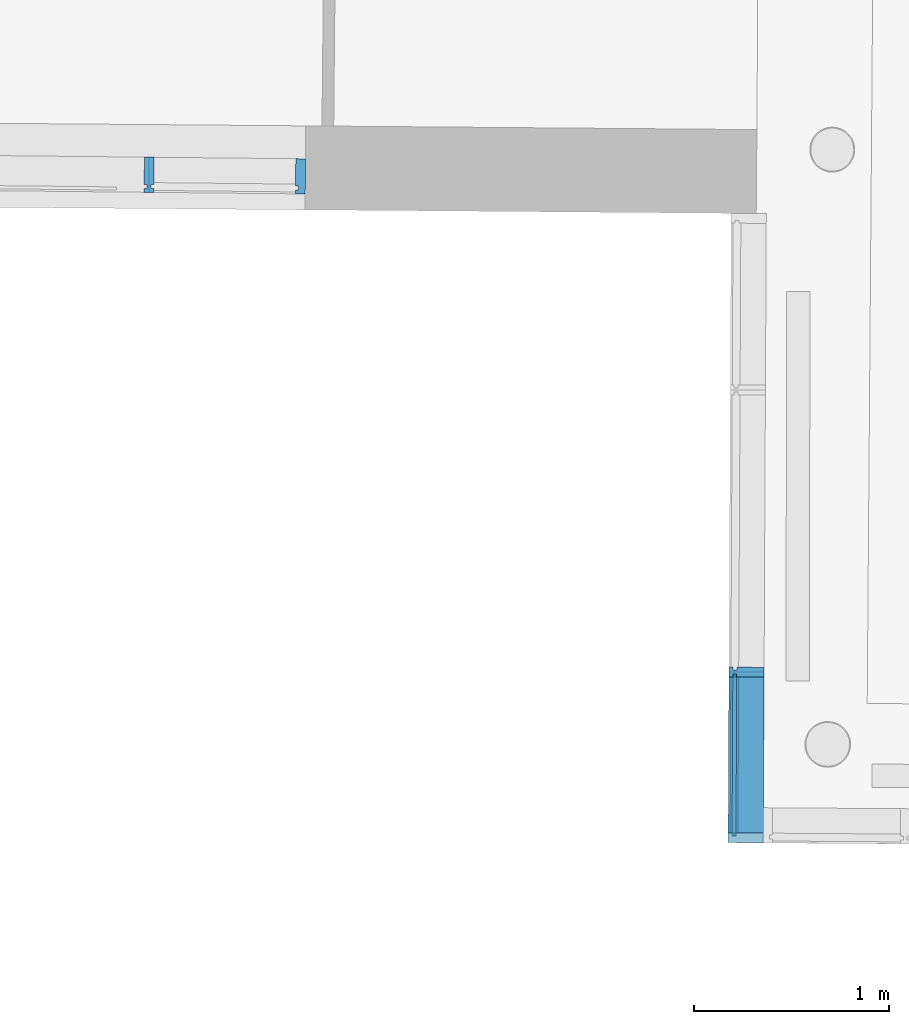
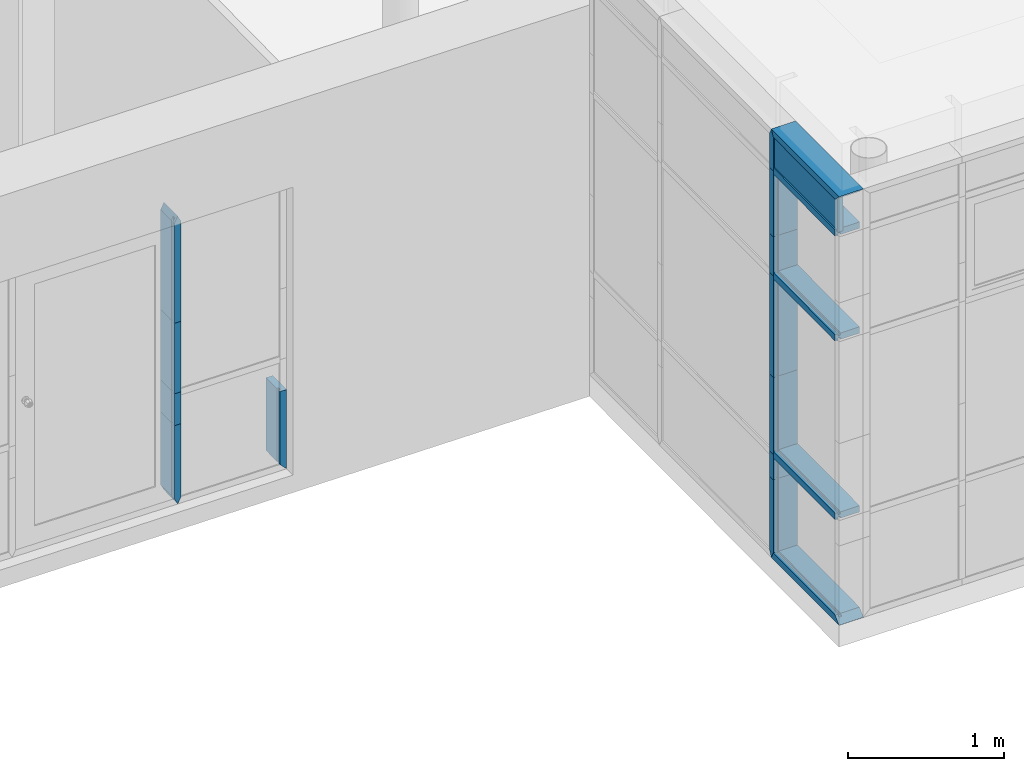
# One storey, part 169 of 196: 18 building element parts, 2 elements without a shape of their own.
"""IFC2X3 building model written with IfcOpenShell, lengths in metres."""

from ifc_helpers import new_model, entity, si_unit, converted_unit, derived_unit, money_unit, direction, frame, origin_with_axes, place, context, subcontext, project, spatial, faceted_brep, material, type_object, element, aggregate, save


model = new_model("IFC2X3")

# Units and contexts
model_context = context("Model", 3, precision=1e-05, world=origin_with_axes(), true_north=direction((0.0, 1.0)))
body_context = subcontext(model_context, "Body", "Model", "MODEL_VIEW")
ifc_project = project(units=[si_unit("LENGTHUNIT", "METRE"), si_unit("AREAUNIT", "SQUARE_METRE"), si_unit("VOLUMEUNIT", "CUBIC_METRE"), converted_unit("PLANEANGLEUNIT", "DEGREE", entity("IfcPlaneAngleMeasure", 0.0174532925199), si_unit("PLANEANGLEUNIT", "RADIAN"), dimensions=[0, 0, 0, 0, 0, 0, 0]), money_unit("EUR"), converted_unit("TIMEUNIT", "Year", entity("IfcTimeMeasure", 31556926.0), si_unit("TIMEUNIT", "SECOND"), dimensions=[0, 0, 1, 0, 0, 0, 0]), si_unit("MASSUNIT", "GRAM", prefix="KILO"), si_unit("THERMODYNAMICTEMPERATUREUNIT", "DEGREE_CELSIUS"), si_unit("LUMINOUSINTENSITYUNIT", "LUMEN"), si_unit("ENERGYUNIT", "JOULE", prefix="MEGA"), derived_unit("THERMALCONDUCTANCEUNIT", [(si_unit("POWERUNIT", "WATT"), 1), (si_unit("LENGTHUNIT", "METRE"), -1), (si_unit("THERMODYNAMICTEMPERATUREUNIT", "KELVIN"), -1)]), derived_unit("SPECIFICHEATCAPACITYUNIT", [(si_unit("ENERGYUNIT", "JOULE"), 1), (si_unit("MASSUNIT", "GRAM", prefix="KILO"), -1), (si_unit("THERMODYNAMICTEMPERATUREUNIT", "KELVIN"), -1)]), derived_unit("MASSDENSITYUNIT", [(si_unit("MASSUNIT", "GRAM", prefix="KILO"), 1), (si_unit("VOLUMEUNIT", "CUBIC_METRE"), -1)])], contexts=[model_context])

# Site, building, storey
site_placement = place(None, origin_with_axes())
site = spatial("IfcSite", under=ifc_project, at=site_placement, Name="Gelände", CompositionType="ELEMENT")
building_placement = place(site_placement, origin_with_axes())
building = spatial("IfcBuilding", under=site, at=building_placement, Name="Gebäude", CompositionType="ELEMENT")
storey_placement = place(building_placement, frame((0.0, 0.0, -3.0), z_axis=(0.0, 0.0, 1.0), x_axis=(1.0, 0.0, 0.0)))
storey = spatial("IfcBuildingStorey", under=building, at=storey_placement, Name="KELLERGESCHOSS", CompositionType="ELEMENT", Elevation=-3.0)

# Proxy, building element parts
building_element_proxy_type = type_object("IfcBuildingElementProxyType", Name="Fassadentyp", PredefinedType="NOTDEFINED")
proxy_1_placement = place(storey_placement, frame((-5.58247621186, 39.1627608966, 0.57767685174), z_axis=(0.0, 0.0, 1.0), x_axis=(1.0, 0.0, 0.0)))
proxy_1 = element("IfcBuildingElementProxy", 1, at=proxy_1_placement, inside=storey, type_object=building_element_proxy_type, Name="Fassade-002")
ifc_material_1 = material(Name="53_Metall, Aluminium")
building_element_part_1_placement = place(proxy_1_placement, origin_with_axes())
building_element_part_1 = element("IfcBuildingElementPart", 2, at=building_element_part_1_placement, material=ifc_material_1, Name="53_Metall, Aluminium", context=body_context, shape_type="Brep", body=[
    faceted_brep([(2.39099130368, -0.0149234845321, 0.619999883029), (2.3907828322, -0.0349223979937, 0.619999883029), (2.37578364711, -0.03476604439, 0.619999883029), (2.37557517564, -0.0547649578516, 0.619999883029), (2.42557245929, -0.0552861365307, 0.619999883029), (2.42744870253, 0.124704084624, 0.619999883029), (2.37745141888, 0.125225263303, 0.619999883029), (2.37599211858, -0.0147671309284, 0.619999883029), (2.39099130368, -0.0149234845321, 0.0349999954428), (2.3907828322, -0.0349223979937, 0.0349999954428), (2.37578364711, -0.03476604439, 0.0499999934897), (2.37557517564, -0.0547649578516, 0.0499999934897), (2.42557245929, -0.0552861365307, 0.0), (2.42744870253, 0.124704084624, 0.0), (2.37745141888, 0.125225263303, 0.0499999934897), (2.37599211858, -0.0147671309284, 0.0499999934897)], [[[0, 1, 2, 3, 4, 5, 6, 7]], [[1, 0, 8, 9]], [[10, 2, 1, 9]], [[2, 10, 11, 3]], [[4, 3, 11, 12]], [[5, 4, 12, 13]], [[6, 5, 13, 14]], [[15, 7, 6, 14]], [[0, 7, 15, 8]], [[8, 15, 14, 13, 12, 11, 10, 9]]]),
])
building_element_part_2_placement = place(proxy_1_placement, origin_with_axes())
building_element_part_2 = element("IfcBuildingElementPart", 3, at=building_element_part_2_placement, material=ifc_material_1, Name="53_Metall, Aluminium", context=body_context, shape_type="Brep", body=[
    faceted_brep([(1.63537904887, -0.00704687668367, 1.41999992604), (1.65037823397, -0.00720323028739, 1.41999992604), (1.65183753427, 0.132789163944, 1.41999992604), (1.60184025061, 0.133310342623, 1.41999992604), (1.60038095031, -0.00668205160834, 1.41999992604), (1.61538013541, -0.00683840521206, 1.41999992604), (1.61517166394, -0.0268373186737, 1.41999992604), (1.60017247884, -0.02668096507, 1.41999992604), (1.59996400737, -0.0466798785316, 1.41999992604), (1.64996129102, -0.0472010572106, 1.41999992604), (1.6501697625, -0.027202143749, 1.41999992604), (1.6351705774, -0.0270457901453, 1.41999992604), (1.63537904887, -0.00704687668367, 0.869344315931), (1.65037823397, -0.00720323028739, 0.869344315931), (1.65183753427, 0.132789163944, 0.869344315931), (1.60184025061, 0.133310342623, 0.869344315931), (1.60038095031, -0.00668205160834, 0.869344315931), (1.61538013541, -0.00683840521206, 0.869344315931), (1.61517166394, -0.0268373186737, 0.869344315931), (1.60017247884, -0.02668096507, 0.869344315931), (1.59996400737, -0.0466798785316, 0.869344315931), (1.64996129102, -0.0472010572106, 0.869344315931), (1.6501697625, -0.027202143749, 0.869344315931), (1.6351705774, -0.0270457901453, 0.869344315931)], [[[0, 1, 2, 3, 4, 5, 6, 7, 8, 9, 10, 11]], [[1, 0, 12, 13]], [[1, 13, 14, 2]], [[3, 2, 14, 15]], [[4, 3, 15, 16]], [[4, 16, 17, 5]], [[5, 17, 18, 6]], [[7, 6, 18, 19]], [[19, 20, 8, 7]], [[9, 8, 20, 21]], [[22, 10, 9, 21]], [[11, 10, 22, 23]], [[0, 11, 23, 12]], [[23, 22, 21, 20, 19, 18, 17, 16, 15, 14, 13, 12]]]),
])
building_element_part_3_placement = place(proxy_1_placement, origin_with_axes())
building_element_part_3 = element("IfcBuildingElementPart", 4, at=building_element_part_3_placement, material=ifc_material_1, Name="53_Metall, Aluminium", context=body_context, shape_type="Brep", body=[
    faceted_brep([(1.63537904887, -0.00704687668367, 2.23081791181), (1.65037823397, -0.00720323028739, 2.20081791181), (1.65183753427, 0.132789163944, 2.20081791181), (1.62683889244, 0.133049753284, 2.25081791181), (1.6249626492, -0.0469404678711, 2.25081791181), (1.64996129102, -0.0472010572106, 2.20081791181), (1.6501697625, -0.027202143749, 2.20081791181), (1.6351705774, -0.0270457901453, 2.23081791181), (1.63537904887, -0.00704687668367, 1.41999992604), (1.65037823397, -0.00720323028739, 1.41999992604), (1.65183753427, 0.132789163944, 1.41999992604), (1.60184025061, 0.133310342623, 2.20081791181), (1.60184025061, 0.133310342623, 1.41999992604), (1.60038095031, -0.00668205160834, 2.20081791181), (1.61538013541, -0.00683840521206, 2.23081791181), (1.61517166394, -0.0268373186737, 2.23081791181), (1.60017247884, -0.02668096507, 2.20081791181), (1.59996400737, -0.0466798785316, 2.20081791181), (1.64996129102, -0.0472010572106, 1.41999992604), (1.59996400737, -0.0466798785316, 1.41999992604), (1.6501697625, -0.027202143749, 1.41999992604), (1.6351705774, -0.0270457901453, 1.41999992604), (1.60017247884, -0.02668096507, 1.41999992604), (1.61517166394, -0.0268373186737, 1.41999992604), (1.61538013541, -0.00683840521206, 1.41999992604), (1.60038095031, -0.00668205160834, 1.41999992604)], [[[0, 1, 2, 3, 4, 5, 6, 7]], [[1, 0, 8, 9]], [[1, 9, 10, 2]], [[11, 3, 2, 10, 12]], [[3, 11, 13, 14, 15, 16, 17, 4]], [[18, 5, 4, 17, 19]], [[20, 6, 5, 18]], [[7, 6, 20, 21]], [[0, 7, 21, 8]], [[21, 20, 18, 19, 22, 23, 24, 25, 12, 10, 9, 8]], [[13, 11, 12, 25]], [[13, 25, 24, 14]], [[14, 24, 23, 15]], [[16, 15, 23, 22]], [[22, 19, 17, 16]]]),
])
building_element_part_4_placement = place(proxy_1_placement, origin_with_axes())
building_element_part_4 = element("IfcBuildingElementPart", 5, at=building_element_part_4_placement, material=ifc_material_1, Name="53_Metall, Aluminium", context=body_context, shape_type="Brep", body=[
    faceted_brep([(1.63537904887, -0.00704687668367, 0.619999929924), (1.65037823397, -0.00720323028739, 0.619999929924), (1.65183753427, 0.132789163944, 0.619999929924), (1.60184025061, 0.133310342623, 0.619999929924), (1.60038095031, -0.00668205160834, 0.619999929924), (1.61538013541, -0.00683840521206, 0.619999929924), (1.61517166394, -0.0268373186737, 0.619999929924), (1.60017247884, -0.02668096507, 0.619999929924), (1.59996400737, -0.0466798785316, 0.619999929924), (1.64996129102, -0.0472010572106, 0.619999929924), (1.6501697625, -0.027202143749, 0.619999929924), (1.6351705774, -0.0270457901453, 0.619999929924), (1.63537904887, -0.00704687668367, 0.02), (1.65037823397, -0.00720323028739, 0.05), (1.65183753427, 0.132789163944, 0.05), (1.62683889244, 0.133049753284, 0.0), (1.60184025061, 0.133310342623, 0.05), (1.60038095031, -0.00668205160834, 0.05), (1.61538013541, -0.00683840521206, 0.02), (1.61517166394, -0.0268373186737, 0.02), (1.60017247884, -0.02668096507, 0.05), (1.59996400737, -0.0466798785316, 0.05), (1.6249626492, -0.0469404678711, 0.0), (1.64996129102, -0.0472010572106, 0.05), (1.6501697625, -0.027202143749, 0.05), (1.6351705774, -0.0270457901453, 0.02)], [[[0, 1, 2, 3, 4, 5, 6, 7, 8, 9, 10, 11]], [[1, 0, 12, 13]], [[1, 13, 14, 2]], [[14, 15, 16, 3, 2]], [[4, 3, 16, 17]], [[4, 17, 18, 5]], [[5, 18, 19, 6]], [[7, 6, 19, 20]], [[20, 21, 8, 7]], [[21, 22, 23, 9, 8]], [[24, 10, 9, 23]], [[11, 10, 24, 25]], [[0, 11, 25, 12]], [[25, 24, 23, 22, 15, 14, 13, 12]], [[21, 20, 19, 18, 17, 16, 15, 22]]]),
])
building_element_part_5_placement = place(proxy_1_placement, origin_with_axes())
building_element_part_5 = element("IfcBuildingElementPart", 6, at=building_element_part_5_placement, material=ifc_material_1, Name="53_Metall, Aluminium", context=body_context, shape_type="Brep", body=[
    faceted_brep([(1.63537904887, -0.00704687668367, 0.869344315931), (1.65037823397, -0.00720323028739, 0.869344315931), (1.65183753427, 0.132789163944, 0.869344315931), (1.60184025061, 0.133310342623, 0.869344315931), (1.60038095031, -0.00668205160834, 0.869344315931), (1.61538013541, -0.00683840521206, 0.869344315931), (1.61517166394, -0.0268373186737, 0.869344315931), (1.60017247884, -0.02668096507, 0.869344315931), (1.59996400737, -0.0466798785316, 0.869344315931), (1.64996129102, -0.0472010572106, 0.869344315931), (1.6501697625, -0.027202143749, 0.869344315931), (1.6351705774, -0.0270457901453, 0.869344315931), (1.63537904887, -0.00704687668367, 0.619999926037), (1.65037823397, -0.00720323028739, 0.619999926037), (1.65183753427, 0.132789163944, 0.619999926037), (1.60184025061, 0.133310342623, 0.619999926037), (1.60038095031, -0.00668205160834, 0.619999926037), (1.61538013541, -0.00683840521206, 0.619999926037), (1.61517166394, -0.0268373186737, 0.619999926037), (1.60017247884, -0.02668096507, 0.619999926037), (1.59996400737, -0.0466798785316, 0.619999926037), (1.64996129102, -0.0472010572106, 0.619999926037), (1.6501697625, -0.027202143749, 0.619999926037), (1.6351705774, -0.0270457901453, 0.619999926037)], [[[0, 1, 2, 3, 4, 5, 6, 7, 8, 9, 10, 11]], [[1, 0, 12, 13]], [[1, 13, 14, 2]], [[3, 2, 14, 15]], [[4, 3, 15, 16]], [[4, 16, 17, 5]], [[5, 17, 18, 6]], [[7, 6, 18, 19]], [[19, 20, 8, 7]], [[9, 8, 20, 21]], [[22, 10, 9, 21]], [[11, 10, 22, 23]], [[0, 11, 23, 12]], [[23, 22, 21, 20, 19, 18, 17, 16, 15, 14, 13, 12]]]),
])
aggregate(proxy_1, [building_element_part_1, building_element_part_2, building_element_part_3, building_element_part_4, building_element_part_5])

proxy_2_placement = place(storey_placement, frame((-0.953000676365, 37.3811147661, 0.610000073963), z_axis=(0.0, 0.0, 1.0), x_axis=(1.0, 0.0, 0.0)))
proxy_2 = element("IfcBuildingElementProxy", 7, at=proxy_2_placement, inside=storey, type_object=building_element_proxy_type, Name="Fassade-002")
ifc_material_2 = material(Name="45_Glas, Normalglas")
building_element_part_6_placement = place(proxy_2_placement, origin_with_axes())
building_element_part_6 = element("IfcBuildingElementPart", 8, at=building_element_part_6_placement, material=ifc_material_2, Name="45_Glas, Normalglas", context=body_context, shape_type="Brep", body=[
    faceted_brep([(0.0124591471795, -1.56172796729, 3.31500001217), (0.0164629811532, -0.732550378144, 3.31500001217), (-0.0235365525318, -0.73235723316, 3.31500001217), (-0.0275403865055, -1.56153482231, 3.31500001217), (0.0124591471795, -1.56172796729, 3.04649580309), (0.0164629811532, -0.732550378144, 3.04649580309), (-0.0235365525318, -0.73235723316, 3.04649580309), (-0.0275403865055, -1.56153482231, 3.04649580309)], [[[0, 1, 2, 3]], [[0, 4, 5, 1]], [[1, 5, 6, 2]], [[3, 2, 6, 7]], [[4, 0, 3, 7]], [[5, 4, 7, 6]]]),
])
building_element_part_7_placement = place(proxy_2_placement, origin_with_axes())
building_element_part_7 = element("IfcBuildingElementPart", 9, at=building_element_part_7_placement, material=ifc_material_1, Name="53_Metall, Aluminium", context=body_context, shape_type="Brep", body=[
    faceted_brep([(0.0024592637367, -1.56167968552, 0.035), (-0.0175405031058, -1.56158311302, 0.035), (-0.0174680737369, -1.54658328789, 0.05), (-0.0374678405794, -1.5464867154, 0.05), (-0.037709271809, -1.59648613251, 0.0), (0.142288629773, -1.59735528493, 0.0), (0.142530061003, -1.54735586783, 0.05), (0.00253169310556, -1.54667986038, 0.05), (0.00642688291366, -0.740002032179, 0.035), (-0.0135728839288, -0.739905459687, 0.035), (-0.0136090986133, -0.747405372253, 0.05), (-0.0336088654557, -0.747308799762, 0.05), (-0.033488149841, -0.722309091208, 0.0), (0.146509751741, -0.723178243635, 0.0), (0.146389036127, -0.748177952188, 0.05), (0.00639066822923, -0.747501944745, 0.05)], [[[0, 1, 2, 3, 4, 5, 6, 7]], [[1, 0, 8, 9]], [[10, 2, 1, 9]], [[2, 10, 11, 3]], [[4, 3, 11, 12]], [[5, 4, 12, 13]], [[6, 5, 13, 14]], [[15, 7, 6, 14]], [[0, 7, 15, 8]], [[8, 15, 14, 13, 12, 11, 10, 9]]]),
])
building_element_part_8_placement = place(proxy_2_placement, origin_with_axes())
building_element_part_8 = element("IfcBuildingElementPart", 10, at=building_element_part_8_placement, material=ifc_material_1, Name="53_Metall, Aluminium", context=body_context, shape_type="Brep", body=[
    faceted_brep([(0.0024592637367, -1.56167968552, 3.31500001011), (0.00253169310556, -1.54667986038, 3.30000001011), (0.142530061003, -1.54735586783, 3.30000001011), (0.142288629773, -1.59735528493, 3.35000001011), (-0.037709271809, -1.59648613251, 3.35000001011), (-0.0374678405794, -1.5464867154, 3.30000001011), (-0.0174680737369, -1.54658328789, 3.30000001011), (-0.0175405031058, -1.56158311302, 3.31500001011), (0.00642688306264, -0.740002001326, 3.31500001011), (0.00639066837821, -0.747501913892, 3.30000001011), (0.146389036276, -0.748177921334, 3.30000001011), (0.14650975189, -0.723178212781, 3.35000001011), (-0.033488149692, -0.722309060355, 3.35000001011), (-0.0336088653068, -0.747308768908, 3.30000001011), (-0.0136090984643, -0.7474053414, 3.30000001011), (-0.0135728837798, -0.739905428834, 3.31500001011)], [[[0, 1, 2, 3, 4, 5, 6, 7]], [[0, 8, 9, 1]], [[9, 10, 2, 1]], [[2, 10, 11, 3]], [[3, 11, 12, 4]], [[4, 12, 13, 5]], [[6, 5, 13, 14]], [[14, 15, 7, 6]], [[7, 15, 8, 0]], [[8, 15, 14, 13, 12, 11, 10, 9]]]),
])
building_element_part_9_placement = place(proxy_2_placement, origin_with_axes())
building_element_part_9 = element("IfcBuildingElementPart", 11, at=building_element_part_9_placement, material=ifc_material_1, Name="53_Metall, Aluminium", context=body_context, shape_type="Brep", body=[
    faceted_brep([(0.00253169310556, -1.54667986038, 3.02649579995), (0.00253169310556, -1.54667986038, 3.01149579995), (0.142530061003, -1.54735586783, 3.01149579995), (0.142530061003, -1.54735586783, 3.06149579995), (0.00253169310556, -1.54667986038, 3.06149579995), (0.00253169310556, -1.54667986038, 3.04649579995), (-0.0174680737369, -1.54658328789, 3.04649579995), (-0.0174680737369, -1.54658328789, 3.06149579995), (-0.0374678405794, -1.5464867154, 3.06149579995), (-0.0374678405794, -1.5464867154, 3.01149579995), (-0.0174680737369, -1.54658328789, 3.01149579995), (-0.0174680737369, -1.54658328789, 3.02649579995), (0.00639066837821, -0.747501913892, 3.02649579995), (0.00639066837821, -0.747501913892, 3.01149579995), (0.146389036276, -0.748177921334, 3.01149579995), (0.146389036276, -0.748177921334, 3.06149579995), (0.00639066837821, -0.747501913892, 3.06149579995), (0.00639066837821, -0.747501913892, 3.04649579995), (-0.0136090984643, -0.7474053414, 3.04649579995), (-0.0136090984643, -0.7474053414, 3.06149579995), (-0.0336088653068, -0.747308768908, 3.06149579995), (-0.0336088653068, -0.747308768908, 3.01149579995), (-0.0136090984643, -0.7474053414, 3.01149579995), (-0.0136090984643, -0.7474053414, 3.02649579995)], [[[0, 1, 2, 3, 4, 5, 6, 7, 8, 9, 10, 11]], [[1, 0, 12, 13]], [[1, 13, 14, 2]], [[2, 14, 15, 3]], [[4, 3, 15, 16]], [[4, 16, 17, 5]], [[5, 17, 18, 6]], [[7, 6, 18, 19]], [[19, 20, 8, 7]], [[8, 20, 21, 9]], [[22, 10, 9, 21]], [[11, 10, 22, 23]], [[0, 11, 23, 12]], [[23, 22, 21, 20, 19, 18, 17, 16, 15, 14, 13, 12]]]),
])
building_element_part_10_placement = place(proxy_2_placement, origin_with_axes())
building_element_part_10 = element("IfcBuildingElementPart", 12, at=building_element_part_10_placement, material=ifc_material_1, Name="53_Metall, Aluminium", context=body_context, shape_type="Brep", body=[
    faceted_brep([(0.00253169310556, -1.54667986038, 2.2064877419), (0.00253169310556, -1.54667986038, 2.1914877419), (0.142530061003, -1.54735586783, 2.1914877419), (0.142530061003, -1.54735586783, 2.2414877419), (0.00253169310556, -1.54667986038, 2.2414877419), (0.00253169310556, -1.54667986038, 2.2264877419), (-0.0174680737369, -1.54658328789, 2.2264877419), (-0.0174680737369, -1.54658328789, 2.2414877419), (-0.0374678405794, -1.5464867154, 2.2414877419), (-0.0374678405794, -1.5464867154, 2.1914877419), (-0.0174680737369, -1.54658328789, 2.1914877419), (-0.0174680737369, -1.54658328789, 2.2064877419), (0.00639066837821, -0.747501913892, 2.2064877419), (0.00639066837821, -0.747501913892, 2.1914877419), (0.146389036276, -0.748177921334, 2.1914877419), (0.146389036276, -0.748177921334, 2.2414877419), (0.00639066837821, -0.747501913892, 2.2414877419), (0.00639066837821, -0.747501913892, 2.2264877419), (-0.0136090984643, -0.7474053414, 2.2264877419), (-0.0136090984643, -0.7474053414, 2.2414877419), (-0.0336088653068, -0.747308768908, 2.2414877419), (-0.0336088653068, -0.747308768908, 2.1914877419), (-0.0136090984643, -0.7474053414, 2.1914877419), (-0.0136090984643, -0.7474053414, 2.2064877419)], [[[0, 1, 2, 3, 4, 5, 6, 7, 8, 9, 10, 11]], [[1, 0, 12, 13]], [[1, 13, 14, 2]], [[2, 14, 15, 3]], [[4, 3, 15, 16]], [[4, 16, 17, 5]], [[5, 17, 18, 6]], [[7, 6, 18, 19]], [[19, 20, 8, 7]], [[8, 20, 21, 9]], [[22, 10, 9, 21]], [[11, 10, 22, 23]], [[0, 11, 23, 12]], [[23, 22, 21, 20, 19, 18, 17, 16, 15, 14, 13, 12]]]),
])
building_element_part_11_placement = place(proxy_2_placement, origin_with_axes())
building_element_part_11 = element("IfcBuildingElementPart", 13, at=building_element_part_11_placement, material=ifc_material_1, Name="53_Metall, Aluminium", context=body_context, shape_type="Brep", body=[
    faceted_brep([(0.00253169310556, -1.54667986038, 0.808463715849), (0.00253169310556, -1.54667986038, 0.793463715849), (0.142530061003, -1.54735586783, 0.793463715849), (0.142530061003, -1.54735586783, 0.843463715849), (0.00253169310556, -1.54667986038, 0.843463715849), (0.00253169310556, -1.54667986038, 0.828463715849), (-0.0174680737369, -1.54658328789, 0.828463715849), (-0.0174680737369, -1.54658328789, 0.843463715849), (-0.0374678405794, -1.5464867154, 0.843463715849), (-0.0374678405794, -1.5464867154, 0.793463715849), (-0.0174680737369, -1.54658328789, 0.793463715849), (-0.0174680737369, -1.54658328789, 0.808463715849), (0.00639066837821, -0.747501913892, 0.808463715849), (0.00639066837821, -0.747501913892, 0.793463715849), (0.146389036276, -0.748177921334, 0.793463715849), (0.146389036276, -0.748177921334, 0.843463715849), (0.00639066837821, -0.747501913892, 0.843463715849), (0.00639066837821, -0.747501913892, 0.828463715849), (-0.0136090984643, -0.7474053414, 0.828463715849), (-0.0136090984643, -0.7474053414, 0.843463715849), (-0.0336088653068, -0.747308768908, 0.843463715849), (-0.0336088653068, -0.747308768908, 0.793463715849), (-0.0136090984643, -0.7474053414, 0.793463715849), (-0.0136090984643, -0.7474053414, 0.808463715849)], [[[0, 1, 2, 3, 4, 5, 6, 7, 8, 9, 10, 11]], [[1, 0, 12, 13]], [[1, 13, 14, 2]], [[2, 14, 15, 3]], [[4, 3, 15, 16]], [[4, 16, 17, 5]], [[5, 17, 18, 6]], [[7, 6, 18, 19]], [[19, 20, 8, 7]], [[8, 20, 21, 9]], [[22, 10, 9, 21]], [[11, 10, 22, 23]], [[0, 11, 23, 12]], [[23, 22, 21, 20, 19, 18, 17, 16, 15, 14, 13, 12]]]),
])
building_element_part_12_placement = place(proxy_2_placement, origin_with_axes())
building_element_part_12 = element("IfcBuildingElementPart", 14, at=building_element_part_12_placement, material=ifc_material_1, Name="53_Metall, Aluminium", context=body_context, shape_type="Brep", body=[
    faceted_brep([(0.00646309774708, -0.73250208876, 3.03649579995), (0.00639066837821, -0.747501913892, 3.03649579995), (0.146389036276, -0.748177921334, 3.03649579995), (0.146630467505, -0.698178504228, 3.03649579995), (0.00663209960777, -0.697502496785, 3.03649579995), (0.0065596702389, -0.712502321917, 3.03649579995), (-0.0134400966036, -0.712405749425, 3.03649579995), (-0.0133676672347, -0.697405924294, 3.03649579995), (-0.0333674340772, -0.697309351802, 3.03649579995), (-0.0336088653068, -0.747308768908, 3.03649579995), (-0.0136090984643, -0.7474053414, 3.03649579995), (-0.0135366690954, -0.732405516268, 3.03649579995), (0.00646309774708, -0.73250208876, 2.51999992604), (0.00639066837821, -0.747501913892, 2.51999992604), (0.146389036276, -0.748177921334, 2.51999992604), (0.146630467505, -0.698178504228, 2.51999992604), (0.00663209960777, -0.697502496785, 2.51999992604), (0.0065596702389, -0.712502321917, 2.51999992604), (-0.0134400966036, -0.712405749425, 2.51999992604), (-0.0133676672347, -0.697405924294, 2.51999992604), (-0.0333674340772, -0.697309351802, 2.51999992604), (-0.0336088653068, -0.747308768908, 2.51999992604), (-0.0136090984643, -0.7474053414, 2.51999992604), (-0.0135366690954, -0.732405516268, 2.51999992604)], [[[0, 1, 2, 3, 4, 5, 6, 7, 8, 9, 10, 11]], [[1, 0, 12, 13]], [[1, 13, 14, 2]], [[3, 2, 14, 15]], [[4, 3, 15, 16]], [[4, 16, 17, 5]], [[5, 17, 18, 6]], [[7, 6, 18, 19]], [[19, 20, 8, 7]], [[9, 8, 20, 21]], [[22, 10, 9, 21]], [[11, 10, 22, 23]], [[0, 11, 23, 12]], [[23, 22, 21, 20, 19, 18, 17, 16, 15, 14, 13, 12]]]),
])
building_element_part_13_placement = place(proxy_2_placement, origin_with_axes())
building_element_part_13 = element("IfcBuildingElementPart", 15, at=building_element_part_13_placement, material=ifc_material_1, Name="53_Metall, Aluminium", context=body_context, shape_type="Brep", body=[
    faceted_brep([(0.00646309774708, -0.73250208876, 2.51999992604), (0.00639066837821, -0.747501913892, 2.51999992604), (0.146389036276, -0.748177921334, 2.51999992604), (0.146630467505, -0.698178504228, 2.51999992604), (0.00663209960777, -0.697502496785, 2.51999992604), (0.0065596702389, -0.712502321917, 2.51999992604), (-0.0134400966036, -0.712405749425, 2.51999992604), (-0.0133676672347, -0.697405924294, 2.51999992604), (-0.0333674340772, -0.697309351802, 2.51999992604), (-0.0336088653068, -0.747308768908, 2.51999992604), (-0.0136090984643, -0.7474053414, 2.51999992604), (-0.0135366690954, -0.732405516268, 2.51999992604), (0.00646309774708, -0.73250208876, 2.2164877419), (0.00639066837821, -0.747501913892, 2.2164877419), (0.146389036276, -0.748177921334, 2.2164877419), (0.146630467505, -0.698178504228, 2.2164877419), (0.00663209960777, -0.697502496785, 2.2164877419), (0.0065596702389, -0.712502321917, 2.2164877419), (-0.0134400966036, -0.712405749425, 2.2164877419), (-0.0133676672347, -0.697405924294, 2.2164877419), (-0.0333674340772, -0.697309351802, 2.2164877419), (-0.0336088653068, -0.747308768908, 2.2164877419), (-0.0136090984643, -0.7474053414, 2.2164877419), (-0.0135366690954, -0.732405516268, 2.2164877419)], [[[0, 1, 2, 3, 4, 5, 6, 7, 8, 9, 10, 11]], [[1, 0, 12, 13]], [[1, 13, 14, 2]], [[3, 2, 14, 15]], [[4, 3, 15, 16]], [[4, 16, 17, 5]], [[5, 17, 18, 6]], [[7, 6, 18, 19]], [[19, 20, 8, 7]], [[9, 8, 20, 21]], [[22, 10, 9, 21]], [[11, 10, 22, 23]], [[0, 11, 23, 12]], [[23, 22, 21, 20, 19, 18, 17, 16, 15, 14, 13, 12]]]),
])
building_element_part_14_placement = place(proxy_2_placement, origin_with_axes())
building_element_part_14 = element("IfcBuildingElementPart", 16, at=building_element_part_14_placement, material=ifc_material_1, Name="53_Metall, Aluminium", context=body_context, shape_type="Brep", body=[
    faceted_brep([(0.00646309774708, -0.73250208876, 2.2164877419), (0.00639066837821, -0.747501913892, 2.2164877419), (0.146389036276, -0.748177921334, 2.2164877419), (0.146630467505, -0.698178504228, 2.2164877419), (0.00663209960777, -0.697502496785, 2.2164877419), (0.0065596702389, -0.712502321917, 2.2164877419), (-0.0134400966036, -0.712405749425, 2.2164877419), (-0.0133676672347, -0.697405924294, 2.2164877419), (-0.0333674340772, -0.697309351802, 2.2164877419), (-0.0336088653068, -0.747308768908, 2.2164877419), (-0.0136090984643, -0.7474053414, 2.2164877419), (-0.0135366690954, -0.732405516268, 2.2164877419), (0.00646309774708, -0.73250208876, 1.41999992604), (0.00639066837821, -0.747501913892, 1.41999992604), (0.146389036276, -0.748177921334, 1.41999992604), (0.146630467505, -0.698178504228, 1.41999992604), (0.00663209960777, -0.697502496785, 1.41999992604), (0.0065596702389, -0.712502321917, 1.41999992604), (-0.0134400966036, -0.712405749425, 1.41999992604), (-0.0133676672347, -0.697405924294, 1.41999992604), (-0.0333674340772, -0.697309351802, 1.41999992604), (-0.0336088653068, -0.747308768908, 1.41999992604), (-0.0136090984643, -0.7474053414, 1.41999992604), (-0.0135366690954, -0.732405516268, 1.41999992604)], [[[0, 1, 2, 3, 4, 5, 6, 7, 8, 9, 10, 11]], [[1, 0, 12, 13]], [[1, 13, 14, 2]], [[3, 2, 14, 15]], [[4, 3, 15, 16]], [[4, 16, 17, 5]], [[5, 17, 18, 6]], [[7, 6, 18, 19]], [[19, 20, 8, 7]], [[9, 8, 20, 21]], [[22, 10, 9, 21]], [[11, 10, 22, 23]], [[0, 11, 23, 12]], [[23, 22, 21, 20, 19, 18, 17, 16, 15, 14, 13, 12]]]),
])
building_element_part_15_placement = place(proxy_2_placement, origin_with_axes())
building_element_part_15 = element("IfcBuildingElementPart", 17, at=building_element_part_15_placement, material=ifc_material_1, Name="53_Metall, Aluminium", context=body_context, shape_type="Brep", body=[
    faceted_brep([(0.00646309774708, -0.73250208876, 1.41999992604), (0.00639066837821, -0.747501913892, 1.41999992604), (0.146389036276, -0.748177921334, 1.41999992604), (0.146630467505, -0.698178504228, 1.41999992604), (0.00663209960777, -0.697502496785, 1.41999992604), (0.0065596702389, -0.712502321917, 1.41999992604), (-0.0134400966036, -0.712405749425, 1.41999992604), (-0.0133676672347, -0.697405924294, 1.41999992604), (-0.0333674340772, -0.697309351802, 1.41999992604), (-0.0336088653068, -0.747308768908, 1.41999992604), (-0.0136090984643, -0.7474053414, 1.41999992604), (-0.0135366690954, -0.732405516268, 1.41999992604), (0.00646309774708, -0.73250208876, 0.818463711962), (0.00639066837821, -0.747501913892, 0.818463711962), (0.146389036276, -0.748177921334, 0.818463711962), (0.146630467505, -0.698178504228, 0.818463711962), (0.00663209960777, -0.697502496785, 0.818463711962), (0.0065596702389, -0.712502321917, 0.818463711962), (-0.0134400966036, -0.712405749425, 0.818463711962), (-0.0133676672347, -0.697405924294, 0.818463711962), (-0.0333674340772, -0.697309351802, 0.818463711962), (-0.0336088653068, -0.747308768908, 0.818463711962), (-0.0136090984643, -0.7474053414, 0.818463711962), (-0.0135366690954, -0.732405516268, 0.818463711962)], [[[0, 1, 2, 3, 4, 5, 6, 7, 8, 9, 10, 11]], [[1, 0, 12, 13]], [[1, 13, 14, 2]], [[3, 2, 14, 15]], [[4, 3, 15, 16]], [[4, 16, 17, 5]], [[5, 17, 18, 6]], [[7, 6, 18, 19]], [[19, 20, 8, 7]], [[9, 8, 20, 21]], [[22, 10, 9, 21]], [[11, 10, 22, 23]], [[0, 11, 23, 12]], [[23, 22, 21, 20, 19, 18, 17, 16, 15, 14, 13, 12]]]),
])
building_element_part_16_placement = place(proxy_2_placement, origin_with_axes())
building_element_part_16 = element("IfcBuildingElementPart", 18, at=building_element_part_16_placement, material=ifc_material_1, Name="53_Metall, Aluminium", context=body_context, shape_type="Brep", body=[
    faceted_brep([(0.0064630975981, -0.732502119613, 0.619999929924), (0.00639066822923, -0.747501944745, 0.619999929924), (0.146389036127, -0.748177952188, 0.619999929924), (0.146630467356, -0.698178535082, 0.619999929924), (0.00663209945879, -0.697502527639, 0.619999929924), (0.00655967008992, -0.712502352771, 0.619999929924), (-0.0134400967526, -0.712405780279, 0.619999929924), (-0.0133676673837, -0.697405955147, 0.619999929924), (-0.0333674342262, -0.697309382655, 0.619999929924), (-0.0336088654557, -0.747308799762, 0.619999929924), (-0.0136090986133, -0.747405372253, 0.619999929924), (-0.0135366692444, -0.732405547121, 0.619999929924), (0.0064630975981, -0.732502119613, 0.02), (0.00639066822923, -0.747501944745, 0.05), (0.146389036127, -0.748177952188, 0.05), (0.146509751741, -0.723178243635, 0.0), (0.146630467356, -0.698178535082, 0.05), (0.00663209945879, -0.697502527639, 0.05), (0.00655967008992, -0.712502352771, 0.02), (-0.0134400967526, -0.712405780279, 0.02), (-0.0133676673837, -0.697405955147, 0.05), (-0.0333674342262, -0.697309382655, 0.05), (-0.033488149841, -0.722309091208, 0.0), (-0.0336088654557, -0.747308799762, 0.05), (-0.0136090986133, -0.747405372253, 0.05), (-0.0135366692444, -0.732405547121, 0.02)], [[[0, 1, 2, 3, 4, 5, 6, 7, 8, 9, 10, 11]], [[1, 0, 12, 13]], [[1, 13, 14, 2]], [[14, 15, 16, 3, 2]], [[4, 3, 16, 17]], [[4, 17, 18, 5]], [[5, 18, 19, 6]], [[7, 6, 19, 20]], [[20, 21, 8, 7]], [[21, 22, 23, 9, 8]], [[24, 10, 9, 23]], [[11, 10, 24, 25]], [[0, 11, 25, 12]], [[25, 24, 23, 22, 15, 14, 13, 12]], [[21, 20, 19, 18, 17, 16, 15, 22]]]),
])
building_element_part_17_placement = place(proxy_2_placement, origin_with_axes())
building_element_part_17 = element("IfcBuildingElementPart", 19, at=building_element_part_17_placement, material=ifc_material_1, Name="53_Metall, Aluminium", context=body_context, shape_type="Brep", body=[
    faceted_brep([(0.0064630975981, -0.732502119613, 0.818463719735), (0.00639066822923, -0.747501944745, 0.818463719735), (0.146389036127, -0.748177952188, 0.818463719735), (0.146630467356, -0.698178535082, 0.818463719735), (0.00663209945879, -0.697502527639, 0.818463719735), (0.00655967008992, -0.712502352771, 0.818463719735), (-0.0134400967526, -0.712405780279, 0.818463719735), (-0.0133676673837, -0.697405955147, 0.818463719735), (-0.0333674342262, -0.697309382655, 0.818463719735), (-0.0336088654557, -0.747308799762, 0.818463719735), (-0.0136090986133, -0.747405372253, 0.818463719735), (-0.0135366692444, -0.732405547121, 0.818463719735), (0.0064630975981, -0.732502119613, 0.619999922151), (0.00639066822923, -0.747501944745, 0.619999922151), (0.146389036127, -0.748177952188, 0.619999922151), (0.146630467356, -0.698178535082, 0.619999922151), (0.00663209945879, -0.697502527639, 0.619999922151), (0.00655967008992, -0.712502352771, 0.619999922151), (-0.0134400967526, -0.712405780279, 0.619999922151), (-0.0133676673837, -0.697405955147, 0.619999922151), (-0.0333674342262, -0.697309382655, 0.619999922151), (-0.0336088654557, -0.747308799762, 0.619999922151), (-0.0136090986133, -0.747405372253, 0.619999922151), (-0.0135366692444, -0.732405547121, 0.619999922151)], [[[0, 1, 2, 3, 4, 5, 6, 7, 8, 9, 10, 11]], [[1, 0, 12, 13]], [[1, 13, 14, 2]], [[3, 2, 14, 15]], [[4, 3, 15, 16]], [[4, 16, 17, 5]], [[5, 17, 18, 6]], [[7, 6, 18, 19]], [[19, 20, 8, 7]], [[9, 8, 20, 21]], [[22, 10, 9, 21]], [[11, 10, 22, 23]], [[0, 11, 23, 12]], [[23, 22, 21, 20, 19, 18, 17, 16, 15, 14, 13, 12]]]),
])
building_element_part_18_placement = place(proxy_2_placement, origin_with_axes())
building_element_part_18 = element("IfcBuildingElementPart", 20, at=building_element_part_18_placement, material=ifc_material_1, Name="53_Metall, Aluminium", context=body_context, shape_type="Brep", body=[
    faceted_brep([(0.00646309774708, -0.73250208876, 3.33000001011), (0.00639066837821, -0.747501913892, 3.30000001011), (0.146389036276, -0.748177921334, 3.30000001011), (0.14650975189, -0.723178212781, 3.35000001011), (-0.033488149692, -0.722309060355, 3.35000001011), (-0.0336088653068, -0.747308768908, 3.30000001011), (-0.0136090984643, -0.7474053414, 3.30000001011), (-0.0135366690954, -0.732405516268, 3.33000001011), (0.00646309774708, -0.73250208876, 3.03649579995), (0.00639066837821, -0.747501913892, 3.03649579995), (0.146389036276, -0.748177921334, 3.03649579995), (0.146630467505, -0.698178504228, 3.30000001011), (0.146630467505, -0.698178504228, 3.03649579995), (0.00663209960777, -0.697502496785, 3.30000001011), (0.0065596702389, -0.712502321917, 3.33000001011), (-0.0134400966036, -0.712405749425, 3.33000001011), (-0.0133676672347, -0.697405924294, 3.30000001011), (-0.0333674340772, -0.697309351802, 3.30000001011), (-0.0336088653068, -0.747308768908, 3.03649579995), (-0.0333674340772, -0.697309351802, 3.03649579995), (-0.0136090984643, -0.7474053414, 3.03649579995), (-0.0135366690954, -0.732405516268, 3.03649579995), (-0.0133676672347, -0.697405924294, 3.03649579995), (-0.0134400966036, -0.712405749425, 3.03649579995), (0.0065596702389, -0.712502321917, 3.03649579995), (0.00663209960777, -0.697502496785, 3.03649579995)], [[[0, 1, 2, 3, 4, 5, 6, 7]], [[1, 0, 8, 9]], [[1, 9, 10, 2]], [[11, 3, 2, 10, 12]], [[3, 11, 13, 14, 15, 16, 17, 4]], [[18, 5, 4, 17, 19]], [[20, 6, 5, 18]], [[7, 6, 20, 21]], [[0, 7, 21, 8]], [[21, 20, 18, 19, 22, 23, 24, 25, 12, 10, 9, 8]], [[13, 11, 12, 25]], [[13, 25, 24, 14]], [[14, 24, 23, 15]], [[16, 15, 23, 22]], [[22, 19, 17, 16]]]),
])
aggregate(proxy_2, [building_element_part_6, building_element_part_7, building_element_part_8, building_element_part_9, building_element_part_10, building_element_part_11, building_element_part_12, building_element_part_13, building_element_part_14, building_element_part_15, building_element_part_16, building_element_part_17, building_element_part_18])

save(model, "model.ifc")
